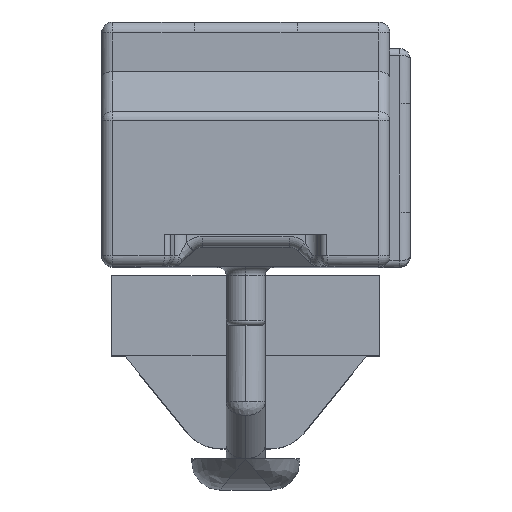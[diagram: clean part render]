
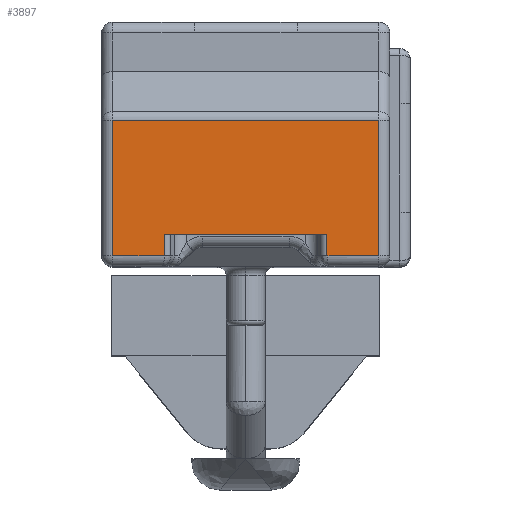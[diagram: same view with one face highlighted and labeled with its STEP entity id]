
A CAD part, top view. The second image highlights one B-rep face of the part: STEP entity #3897.
In plain terms, the highlighted planar face has unit normal (0, 0, 1).
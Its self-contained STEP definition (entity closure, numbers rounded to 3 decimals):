
#224 = ORIENTED_EDGE ( 'NONE', *, *, #4053, .T. ) ;
#542 = DIRECTION ( 'NONE',  ( -1., 0., 0. ) ) ;
#604 = VECTOR ( 'NONE', #3733, 1000. ) ;
#744 = VERTEX_POINT ( 'NONE', #9551 ) ;
#909 = CARTESIAN_POINT ( 'NONE',  ( 3.753, -5.05, 12.7 ) ) ;
#1081 = VERTEX_POINT ( 'NONE', #7252 ) ;
#1115 = CARTESIAN_POINT ( 'NONE',  ( 6.65, -4.55, 12.7 ) ) ;
#1168 = EDGE_CURVE ( 'NONE', #11474, #744, #10428, .T. ) ;
#1392 = DIRECTION ( 'NONE',  ( 0., 1., 0. ) ) ;
#1786 = ORIENTED_EDGE ( 'NONE', *, *, #11071, .T. ) ;
#2017 = CARTESIAN_POINT ( 'NONE',  ( 3.753, -4.55, 12.7 ) ) ;
#2608 = LINE ( 'NONE', #12078, #2634 ) ;
#2634 = VECTOR ( 'NONE', #6037, 1000. ) ;
#2729 = ORIENTED_EDGE ( 'NONE', *, *, #10417, .T. ) ;
#2751 = CARTESIAN_POINT ( 'NONE',  ( -6.15, -4.55, 12.7 ) ) ;
#3166 = CARTESIAN_POINT ( 'NONE',  ( 6.15, 1.698, 12.7 ) ) ;
#3382 = FACE_OUTER_BOUND ( 'NONE', #5141, .T. ) ;
#3490 = CARTESIAN_POINT ( 'NONE',  ( 6.65, -5.05, 12.7 ) ) ;
#3601 = VERTEX_POINT ( 'NONE', #2017 ) ;
#3637 = VERTEX_POINT ( 'NONE', #11262 ) ;
#3733 = DIRECTION ( 'NONE',  ( 0., -1., 0. ) ) ;
#3897 = ADVANCED_FACE ( 'NONE', ( #3382 ), #4440, .F. ) ;
#4053 = EDGE_CURVE ( 'NONE', #1081, #3601, #9566, .T. ) ;
#4440 = PLANE ( 'NONE',  #12958 ) ;
#4522 = DIRECTION ( 'NONE',  ( 0., 1., 0. ) ) ;
#4955 = VERTEX_POINT ( 'NONE', #8310 ) ;
#5050 = VECTOR ( 'NONE', #542, 1000. ) ;
#5141 = EDGE_LOOP ( 'NONE', ( #11869, #1786, #10451, #11330, #2729, #224, #9034, #11694 ) ) ;
#5393 = CARTESIAN_POINT ( 'NONE',  ( 6.15, -4.55, 12.7 ) ) ;
#5657 = VERTEX_POINT ( 'NONE', #8213 ) ;
#6037 = DIRECTION ( 'NONE',  ( 1., 0., 0. ) ) ;
#6468 = DIRECTION ( 'NONE',  ( 1., 0., 0. ) ) ;
#6773 = CARTESIAN_POINT ( 'NONE',  ( -3.753, -5.05, 12.7 ) ) ;
#6874 = EDGE_CURVE ( 'NONE', #10545, #11474, #12358, .T. ) ;
#7252 = CARTESIAN_POINT ( 'NONE',  ( 3.753, -3.55, 12.7 ) ) ;
#7534 = EDGE_CURVE ( 'NONE', #3601, #10545, #7698, .T. ) ;
#7683 = VECTOR ( 'NONE', #10315, 1000. ) ;
#7698 = LINE ( 'NONE', #1115, #7683 ) ;
#8213 = CARTESIAN_POINT ( 'NONE',  ( -3.753, -3.55, 12.7 ) ) ;
#8310 = CARTESIAN_POINT ( 'NONE',  ( -6.15, -4.55, 12.7 ) ) ;
#8482 = CARTESIAN_POINT ( 'NONE',  ( 6.15, -5.05, 12.7 ) ) ;
#9034 = ORIENTED_EDGE ( 'NONE', *, *, #7534, .T. ) ;
#9295 = EDGE_CURVE ( 'NONE', #4955, #3637, #12083, .T. ) ;
#9360 = EDGE_CURVE ( 'NONE', #3637, #5657, #11494, .T. ) ;
#9551 = CARTESIAN_POINT ( 'NONE',  ( -6.15, 1.698, 12.7 ) ) ;
#9566 = LINE ( 'NONE', #909, #10836 ) ;
#10315 = DIRECTION ( 'NONE',  ( 1., 0., 0. ) ) ;
#10417 = EDGE_CURVE ( 'NONE', #5657, #1081, #2608, .T. ) ;
#10428 = LINE ( 'NONE', #11492, #5050 ) ;
#10451 = ORIENTED_EDGE ( 'NONE', *, *, #9295, .T. ) ;
#10545 = VERTEX_POINT ( 'NONE', #5393 ) ;
#10589 = DIRECTION ( 'NONE',  ( 0., 0., -1. ) ) ;
#10836 = VECTOR ( 'NONE', #11257, 1000. ) ;
#11071 = EDGE_CURVE ( 'NONE', #744, #4955, #11466, .T. ) ;
#11257 = DIRECTION ( 'NONE',  ( 0., -1., 0. ) ) ;
#11262 = CARTESIAN_POINT ( 'NONE',  ( -3.753, -4.55, 12.7 ) ) ;
#11330 = ORIENTED_EDGE ( 'NONE', *, *, #9360, .T. ) ;
#11466 = LINE ( 'NONE', #2751, #604 ) ;
#11474 = VERTEX_POINT ( 'NONE', #3166 ) ;
#11492 = CARTESIAN_POINT ( 'NONE',  ( 6.65, 1.698, 12.7 ) ) ;
#11494 = LINE ( 'NONE', #6773, #11506 ) ;
#11506 = VECTOR ( 'NONE', #12839, 1000. ) ;
#11694 = ORIENTED_EDGE ( 'NONE', *, *, #6874, .T. ) ;
#11869 = ORIENTED_EDGE ( 'NONE', *, *, #1168, .T. ) ;
#12078 = CARTESIAN_POINT ( 'NONE',  ( -5.6, -3.55, 12.7 ) ) ;
#12083 = LINE ( 'NONE', #12530, #12111 ) ;
#12111 = VECTOR ( 'NONE', #6468, 1000. ) ;
#12358 = LINE ( 'NONE', #8482, #12366 ) ;
#12366 = VECTOR ( 'NONE', #1392, 1000. ) ;
#12530 = CARTESIAN_POINT ( 'NONE',  ( 6.65, -4.55, 12.7 ) ) ;
#12839 = DIRECTION ( 'NONE',  ( 0., 1., 0. ) ) ;
#12958 = AXIS2_PLACEMENT_3D ( 'NONE', #3490, #10589, #4522 ) ;
